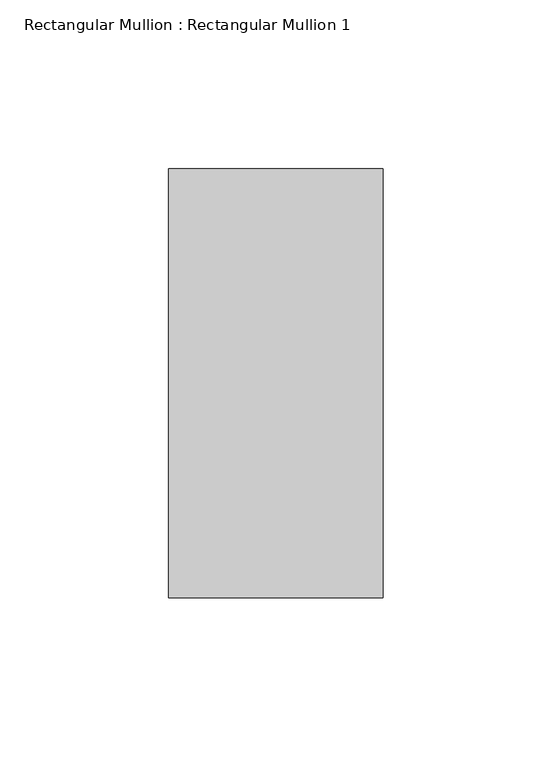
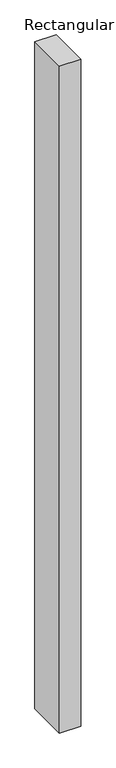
"""IFC4 building model written with IfcOpenShell, lengths in millimetres: member geometry, Rectangular Mullion : Rectangular Mullion 1."""

from ifc_helpers import new_model, si_unit, frame, origin, place, context, project, spatial, polyline, outline, extrude, source, transform, mapped, element, save


def rectangular_mullion_rectangular_mullion_1_9d77b909(model_context):
    return source(origin(), model_context, "Body", "SweptSolid", [
        extrude(outline(polyline([(31.75, 63.5), (31.75, -63.5), (-31.75, -63.5), (-31.75, 63.5), (31.75, 63.5)])), frame((0.0, 0.0, -2104.5714286), z_axis=(0.0, 0.0, 1.0), x_axis=(1.0, 0.0, 0.0)), (0.0, 0.0, 1.0), 2104.5714286),
    ])


if __name__ == "__main__":
    model = new_model("IFC4")
    model_context = context("Model", 3, world=origin())
    ifc_project = project(units=[si_unit("LENGTHUNIT", "METRE", prefix="MILLI")], contexts=[model_context])
    site = spatial("IfcSite", under=ifc_project)
    building = spatial("IfcBuilding", under=site)
    placement = place(None, origin())
    rectangular_mullion_rectangular_mullion_1_shape = rectangular_mullion_rectangular_mullion_1_9d77b909(model_context)
    element("IfcMember", 1, ObjectType="Rectangular Mullion : Rectangular Mullion 1", at=placement, inside=building, context=model_context, shape_type="MappedRepresentation", body=[
        mapped(rectangular_mullion_rectangular_mullion_1_shape, transform((0.0, 0.0, 0.0), x_axis=(1.0, 0.0, 0.0), y_axis=(0.0, 1.0, 0.0), z_axis=(0.0, 0.0, 1.0))),
    ])
    save(model, "model.ifc")
